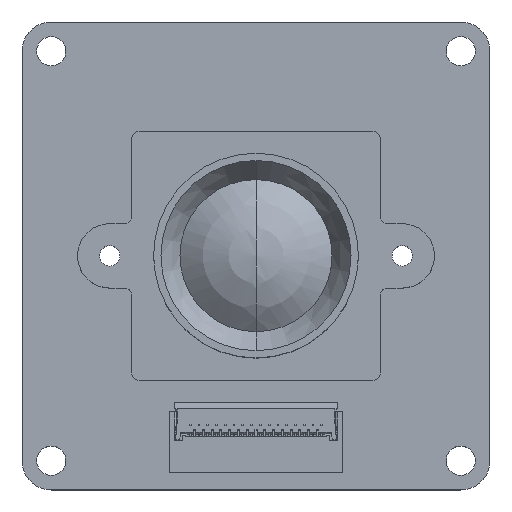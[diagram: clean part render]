
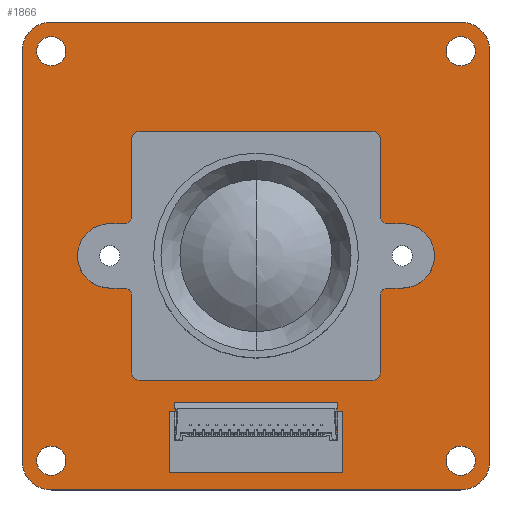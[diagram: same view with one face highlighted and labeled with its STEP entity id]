
A CAD part, top view. The second image highlights one B-rep face of the part: STEP entity #1866.
In plain terms, the highlighted planar face has unit normal (0, 0, 1).
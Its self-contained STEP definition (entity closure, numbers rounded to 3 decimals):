
#1271=CARTESIAN_POINT('',(-14.,14.,1.6));
#1272=DIRECTION('',(0.,0.,1.));
#1273=DIRECTION('',(0.,1.,0.));
#1274=AXIS2_PLACEMENT_3D('',#1271,#1272,#1273);
#1276=DIRECTION('',(-1.,0.,0.));
#1277=VECTOR('',#1276,28.);
#1278=CARTESIAN_POINT('',(14.,16.,1.6));
#1279=LINE('',#1278,#1277);
#1280=CARTESIAN_POINT('',(14.,14.,1.6));
#1281=DIRECTION('',(0.,0.,1.));
#1282=DIRECTION('',(1.,0.,0.));
#1283=AXIS2_PLACEMENT_3D('',#1280,#1281,#1282);
#1285=DIRECTION('',(0.,1.,0.));
#1286=VECTOR('',#1285,28.);
#1287=CARTESIAN_POINT('',(16.,-14.,1.6));
#1288=LINE('',#1287,#1286);
#1289=CARTESIAN_POINT('',(14.,-14.,1.6));
#1290=DIRECTION('',(0.,0.,1.));
#1291=DIRECTION('',(0.,-1.,0.));
#1292=AXIS2_PLACEMENT_3D('',#1289,#1290,#1291);
#1294=DIRECTION('',(1.,0.,0.));
#1295=VECTOR('',#1294,28.);
#1296=CARTESIAN_POINT('',(-14.,-16.,1.6));
#1297=LINE('',#1296,#1295);
#1298=CARTESIAN_POINT('',(-14.,-14.,1.6));
#1299=DIRECTION('',(0.,0.,1.));
#1300=DIRECTION('',(-1.,0.,0.));
#1301=AXIS2_PLACEMENT_3D('',#1298,#1299,#1300);
#1303=DIRECTION('',(0.,-1.,0.));
#1304=VECTOR('',#1303,28.);
#1305=CARTESIAN_POINT('',(-16.,14.,1.6));
#1306=LINE('',#1305,#1304);
#1307=CARTESIAN_POINT('',(-14.,14.,1.6));
#1308=DIRECTION('',(0.,0.,1.));
#1309=DIRECTION('',(1.,0.,0.));
#1310=AXIS2_PLACEMENT_3D('',#1307,#1308,#1309);
#1312=CARTESIAN_POINT('',(-14.,14.,1.6));
#1313=DIRECTION('',(0.,0.,1.));
#1314=DIRECTION('',(-1.,0.,0.));
#1315=AXIS2_PLACEMENT_3D('',#1312,#1313,#1314);
#1317=CARTESIAN_POINT('',(14.,14.,1.6));
#1318=DIRECTION('',(0.,0.,1.));
#1319=DIRECTION('',(1.,0.,0.));
#1320=AXIS2_PLACEMENT_3D('',#1317,#1318,#1319);
#1322=CARTESIAN_POINT('',(14.,14.,1.6));
#1323=DIRECTION('',(0.,0.,1.));
#1324=DIRECTION('',(-1.,0.,0.));
#1325=AXIS2_PLACEMENT_3D('',#1322,#1323,#1324);
#1327=CARTESIAN_POINT('',(14.,-14.,1.6));
#1328=DIRECTION('',(0.,0.,1.));
#1329=DIRECTION('',(1.,0.,0.));
#1330=AXIS2_PLACEMENT_3D('',#1327,#1328,#1329);
#1332=CARTESIAN_POINT('',(14.,-14.,1.6));
#1333=DIRECTION('',(0.,0.,1.));
#1334=DIRECTION('',(-1.,0.,0.));
#1335=AXIS2_PLACEMENT_3D('',#1332,#1333,#1334);
#1337=CARTESIAN_POINT('',(-14.,-14.,1.6));
#1338=DIRECTION('',(0.,0.,1.));
#1339=DIRECTION('',(1.,0.,0.));
#1340=AXIS2_PLACEMENT_3D('',#1337,#1338,#1339);
#1342=CARTESIAN_POINT('',(-14.,-14.,1.6));
#1343=DIRECTION('',(0.,0.,1.));
#1344=DIRECTION('',(-1.,0.,0.));
#1345=AXIS2_PLACEMENT_3D('',#1342,#1343,#1344);
#1347=CARTESIAN_POINT('',(-10.,0.,1.6));
#1348=DIRECTION('',(0.,0.,1.));
#1349=DIRECTION('',(1.,0.,0.));
#1350=AXIS2_PLACEMENT_3D('',#1347,#1348,#1349);
#1352=CARTESIAN_POINT('',(-10.,0.,1.6));
#1353=DIRECTION('',(0.,0.,1.));
#1354=DIRECTION('',(-1.,0.,0.));
#1355=AXIS2_PLACEMENT_3D('',#1352,#1353,#1354);
#1357=CARTESIAN_POINT('',(10.,0.,1.6));
#1358=DIRECTION('',(0.,0.,1.));
#1359=DIRECTION('',(1.,0.,0.));
#1360=AXIS2_PLACEMENT_3D('',#1357,#1358,#1359);
#1362=CARTESIAN_POINT('',(10.,0.,1.6));
#1363=DIRECTION('',(0.,0.,1.));
#1364=DIRECTION('',(-1.,0.,0.));
#1365=AXIS2_PLACEMENT_3D('',#1362,#1363,#1364);
#1503=CARTESIAN_POINT('',(-14.,16.,1.6));
#1504=VERTEX_POINT('',#1503);
#1505=CARTESIAN_POINT('',(-16.,14.,1.6));
#1506=VERTEX_POINT('',#1505);
#1511=CARTESIAN_POINT('',(-16.,-14.,1.6));
#1512=VERTEX_POINT('',#1511);
#1513=CARTESIAN_POINT('',(-14.,-16.,1.6));
#1514=VERTEX_POINT('',#1513);
#1519=CARTESIAN_POINT('',(14.,-16.,1.6));
#1520=VERTEX_POINT('',#1519);
#1521=CARTESIAN_POINT('',(16.,-14.,1.6));
#1522=VERTEX_POINT('',#1521);
#1527=CARTESIAN_POINT('',(16.,14.,1.6));
#1528=VERTEX_POINT('',#1527);
#1529=CARTESIAN_POINT('',(14.,16.,1.6));
#1530=VERTEX_POINT('',#1529);
#1547=CARTESIAN_POINT('',(-13.,14.,1.6));
#1548=CARTESIAN_POINT('',(-15.,14.,1.6));
#1549=VERTEX_POINT('',#1547);
#1550=VERTEX_POINT('',#1548);
#1551=CARTESIAN_POINT('',(15.,14.,1.6));
#1552=CARTESIAN_POINT('',(13.,14.,1.6));
#1553=VERTEX_POINT('',#1551);
#1554=VERTEX_POINT('',#1552);
#1555=CARTESIAN_POINT('',(15.,-14.,1.6));
#1556=CARTESIAN_POINT('',(13.,-14.,1.6));
#1557=VERTEX_POINT('',#1555);
#1558=VERTEX_POINT('',#1556);
#1559=CARTESIAN_POINT('',(-13.,-14.,1.6));
#1560=CARTESIAN_POINT('',(-15.,-14.,1.6));
#1561=VERTEX_POINT('',#1559);
#1562=VERTEX_POINT('',#1560);
#1571=CARTESIAN_POINT('',(-9.,0.,1.6));
#1572=CARTESIAN_POINT('',(-11.,0.,1.6));
#1573=VERTEX_POINT('',#1571);
#1574=VERTEX_POINT('',#1572);
#1575=CARTESIAN_POINT('',(11.,0.,1.6));
#1576=CARTESIAN_POINT('',(9.,0.,1.6));
#1577=VERTEX_POINT('',#1575);
#1578=VERTEX_POINT('',#1576);
#1816=CARTESIAN_POINT('',(0.,0.,1.6));
#1817=DIRECTION('',(0.,0.,1.));
#1818=DIRECTION('',(1.,0.,0.));
#1819=AXIS2_PLACEMENT_3D('',#1816,#1817,#1818);
#1820=PLANE('',#1819);
#1821=ORIENTED_EDGE('',*,*,#1712,.F.);
#1822=ORIENTED_EDGE('',*,*,#1728,.F.);
#1823=ORIENTED_EDGE('',*,*,#1741,.F.);
#1824=ORIENTED_EDGE('',*,*,#1754,.F.);
#1825=ORIENTED_EDGE('',*,*,#1769,.F.);
#1826=ORIENTED_EDGE('',*,*,#1782,.F.);
#1827=ORIENTED_EDGE('',*,*,#1797,.F.);
#1828=ORIENTED_EDGE('',*,*,#1809,.F.);
#1829=EDGE_LOOP('',(#1821,#1822,#1823,#1824,#1825,#1826,#1827,#1828));
#1830=FACE_OUTER_BOUND('',#1829,.F.);
#1832=ORIENTED_EDGE('',*,*,#1831,.T.);
#1834=ORIENTED_EDGE('',*,*,#1833,.T.);
#1835=EDGE_LOOP('',(#1832,#1834));
#1836=FACE_BOUND('',#1835,.F.);
#1838=ORIENTED_EDGE('',*,*,#1837,.T.);
#1840=ORIENTED_EDGE('',*,*,#1839,.T.);
#1841=EDGE_LOOP('',(#1838,#1840));
#1842=FACE_BOUND('',#1841,.F.);
#1844=ORIENTED_EDGE('',*,*,#1843,.T.);
#1846=ORIENTED_EDGE('',*,*,#1845,.T.);
#1847=EDGE_LOOP('',(#1844,#1846));
#1848=FACE_BOUND('',#1847,.F.);
#1849=ORIENTED_EDGE('',*,*,#1620,.T.);
#1851=ORIENTED_EDGE('',*,*,#1850,.T.);
#1852=EDGE_LOOP('',(#1849,#1851));
#1853=FACE_BOUND('',#1852,.F.);
#1855=ORIENTED_EDGE('',*,*,#1854,.T.);
#1857=ORIENTED_EDGE('',*,*,#1856,.T.);
#1858=EDGE_LOOP('',(#1855,#1857));
#1859=FACE_BOUND('',#1858,.F.);
#1861=ORIENTED_EDGE('',*,*,#1860,.T.);
#1863=ORIENTED_EDGE('',*,*,#1862,.T.);
#1864=EDGE_LOOP('',(#1861,#1863));
#1865=FACE_BOUND('',#1864,.F.);
#1866=ADVANCED_FACE('',(#1830,#1836,#1842,#1848,#1853,#1859,#1865),#1820,.T.);
#1275=CIRCLE('',#1274,2.);
#1284=CIRCLE('',#1283,2.);
#1293=CIRCLE('',#1292,2.);
#1302=CIRCLE('',#1301,2.);
#1311=CIRCLE('',#1310,1.);
#1316=CIRCLE('',#1315,1.);
#1321=CIRCLE('',#1320,1.);
#1326=CIRCLE('',#1325,1.);
#1331=CIRCLE('',#1330,1.);
#1336=CIRCLE('',#1335,1.);
#1341=CIRCLE('',#1340,1.);
#1346=CIRCLE('',#1345,1.);
#1351=CIRCLE('',#1350,1.);
#1356=CIRCLE('',#1355,1.);
#1361=CIRCLE('',#1360,1.);
#1366=CIRCLE('',#1365,1.);
#1620=EDGE_CURVE('',#1561,#1562,#1341,.T.);
#1712=EDGE_CURVE('',#1504,#1506,#1275,.T.);
#1728=EDGE_CURVE('',#1530,#1504,#1279,.T.);
#1741=EDGE_CURVE('',#1528,#1530,#1284,.T.);
#1754=EDGE_CURVE('',#1522,#1528,#1288,.T.);
#1769=EDGE_CURVE('',#1520,#1522,#1293,.T.);
#1782=EDGE_CURVE('',#1514,#1520,#1297,.T.);
#1797=EDGE_CURVE('',#1512,#1514,#1302,.T.);
#1809=EDGE_CURVE('',#1506,#1512,#1306,.T.);
#1831=EDGE_CURVE('',#1549,#1550,#1311,.T.);
#1833=EDGE_CURVE('',#1550,#1549,#1316,.T.);
#1837=EDGE_CURVE('',#1553,#1554,#1321,.T.);
#1839=EDGE_CURVE('',#1554,#1553,#1326,.T.);
#1843=EDGE_CURVE('',#1557,#1558,#1331,.T.);
#1845=EDGE_CURVE('',#1558,#1557,#1336,.T.);
#1850=EDGE_CURVE('',#1562,#1561,#1346,.T.);
#1854=EDGE_CURVE('',#1573,#1574,#1351,.T.);
#1856=EDGE_CURVE('',#1574,#1573,#1356,.T.);
#1860=EDGE_CURVE('',#1577,#1578,#1361,.T.);
#1862=EDGE_CURVE('',#1578,#1577,#1366,.T.);
